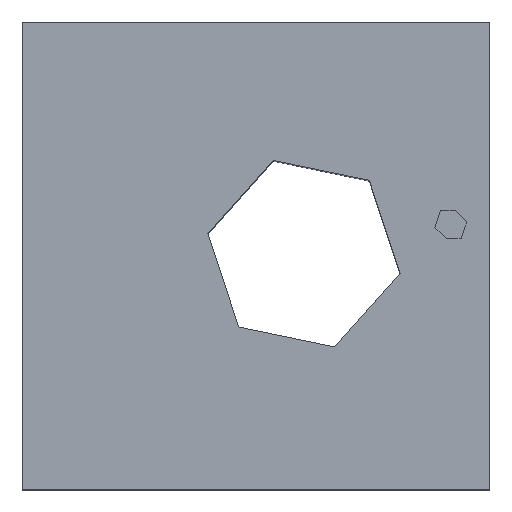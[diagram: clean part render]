
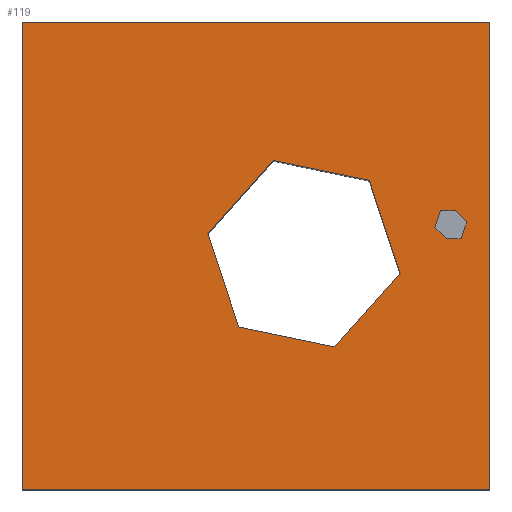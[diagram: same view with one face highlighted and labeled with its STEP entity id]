
A CAD part, top view. The second image highlights one B-rep face of the part: STEP entity #119.
In plain terms, the highlighted planar face has unit normal (0, 0, 1).
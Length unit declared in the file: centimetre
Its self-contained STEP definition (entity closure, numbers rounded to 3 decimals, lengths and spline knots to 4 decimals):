
#2 = VERTEX_POINT ( 'NONE', #594 ) ;
#5 = CARTESIAN_POINT ( 'NONE',  ( 882.92, 560.2804, 1000. ) ) ;
#12 = CARTESIAN_POINT ( 'NONE',  ( 907.2796, 535.9208, 1000. ) ) ;
#15 = VERTEX_POINT ( 'NONE', #497 ) ;
#45 = LINE ( 'NONE', #173, #414 ) ;
#49 = LINE ( 'NONE', #12, #220 ) ;
#61 = EDGE_CURVE ( 'NONE', #498, #516, #441, .T. ) ;
#66 = ORIENTED_EDGE ( 'NONE', *, *, #61, .T. ) ;
#79 = VERTEX_POINT ( 'NONE', #777 ) ;
#81 = LINE ( 'NONE', #461, #489 ) ;
#84 = DIRECTION ( 'NONE',  ( -0.312, -0.95, 0. ) ) ;
#87 = DIRECTION ( 'NONE',  ( 1., 0., 0. ) ) ;
#93 = DIRECTION ( 'NONE',  ( 0.312, 0.95, 0. ) ) ;
#116 = VERTEX_POINT ( 'NONE', #193 ) ;
#119 = ADVANCED_FACE ( 'NONE', ( #549, #185, #188 ), #313, .T. ) ;
#128 = DIRECTION ( 'NONE',  ( -0.979, 0.204, 0. ) ) ;
#152 = CARTESIAN_POINT ( 'NONE',  ( 742.6285, 660.9248, 1000. ) ) ;
#154 = ORIENTED_EDGE ( 'NONE', *, *, #550, .T. ) ;
#155 = LINE ( 'NONE', #570, #697 ) ;
#156 = VECTOR ( 'NONE', #584, 100. ) ;
#158 = VERTEX_POINT ( 'NONE', #202 ) ;
#165 = VERTEX_POINT ( 'NONE', #636 ) ;
#172 = EDGE_LOOP ( 'NONE', ( #66, #631, #287, #772 ) ) ;
#173 = CARTESIAN_POINT ( 'NONE',  ( 396.9165, 546.8906, 1000. ) ) ;
#177 = VECTOR ( 'NONE', #84, 100. ) ;
#185 = FACE_BOUND ( 'NONE', #362, .T. ) ;
#187 = LINE ( 'NONE', #152, #561 ) ;
#188 = FACE_OUTER_BOUND ( 'NONE', #172, .T. ) ;
#190 = ORIENTED_EDGE ( 'NONE', *, *, #520, .T. ) ;
#193 = CARTESIAN_POINT ( 'NONE',  ( 1000., 0., 1000. ) ) ;
#202 = CARTESIAN_POINT ( 'NONE',  ( 951.0688, 572.1522, 1000. ) ) ;
#204 = EDGE_CURVE ( 'NONE', #516, #116, #463, .T. ) ;
#207 = DIRECTION ( 'NONE',  ( 0.313, -0.95, 0. ) ) ;
#210 = EDGE_CURVE ( 'NONE', #337, #318, #211, .T. ) ;
#211 = LINE ( 'NONE', #327, #156 ) ;
#215 = ORIENTED_EDGE ( 'NONE', *, *, #692, .F. ) ;
#220 = VECTOR ( 'NONE', #543, 100. ) ;
#223 = EDGE_CURVE ( 'NONE', #384, #498, #155, .T. ) ;
#227 = EDGE_CURVE ( 'NONE', #443, #158, #332, .T. ) ;
#244 = CARTESIAN_POINT ( 'NONE',  ( 1000., 1000., 1000. ) ) ;
#248 = CARTESIAN_POINT ( 'NONE',  ( 907.2796, 535.9208, 1000. ) ) ;
#255 = CARTESIAN_POINT ( 'NONE',  ( 808.4662, 461.3279, 1000. ) ) ;
#261 = VERTEX_POINT ( 'NONE', #255 ) ;
#267 = ORIENTED_EDGE ( 'NONE', *, *, #227, .F. ) ;
#269 = VECTOR ( 'NONE', #390, 100. ) ;
#277 = VERTEX_POINT ( 'NONE', #248 ) ;
#282 = VECTOR ( 'NONE', #372, 100. ) ;
#287 = ORIENTED_EDGE ( 'NONE', *, *, #472, .T. ) ;
#293 = LINE ( 'NONE', #666, #664 ) ;
#304 = ORIENTED_EDGE ( 'NONE', *, *, #397, .T. ) ;
#309 = ORIENTED_EDGE ( 'NONE', *, *, #413, .F. ) ;
#313 = PLANE ( 'NONE',  #591 ) ;
#317 = CARTESIAN_POINT ( 'NONE',  ( 536.8537, 703.7061, 1000. ) ) ;
#318 = VERTEX_POINT ( 'NONE', #618 ) ;
#325 = VERTEX_POINT ( 'NONE', #660 ) ;
#327 = CARTESIAN_POINT ( 'NONE',  ( 536.8537, 703.7061, 1000. ) ) ;
#329 = DIRECTION ( 'NONE',  ( -0.313, 0.95, 0. ) ) ;
#332 = LINE ( 'NONE', #581, #538 ) ;
#333 = VECTOR ( 'NONE', #745, 100. ) ;
#337 = VERTEX_POINT ( 'NONE', #317 ) ;
#343 = ORIENTED_EDGE ( 'NONE', *, *, #575, .T. ) ;
#356 = EDGE_CURVE ( 'NONE', #2, #15, #363, .T. ) ;
#362 = EDGE_LOOP ( 'NONE', ( #565, #343, #462, #304, #190, #154 ) ) ;
#363 = LINE ( 'NONE', #551, #530 ) ;
#372 = DIRECTION ( 'NONE',  ( 0., -1., 0. ) ) ;
#378 = DIRECTION ( 'NONE',  ( 0., 0., 1. ) ) ;
#384 = VERTEX_POINT ( 'NONE', #244 ) ;
#390 = DIRECTION ( 'NONE',  ( -0.707, 0.707, 0. ) ) ;
#397 = EDGE_CURVE ( 'NONE', #318, #261, #187, .T. ) ;
#413 = EDGE_CURVE ( 'NONE', #15, #165, #585, .T. ) ;
#414 = VECTOR ( 'NONE', #712, 100. ) ;
#426 = VERTEX_POINT ( 'NONE', #524 ) ;
#441 = LINE ( 'NONE', #615, #282 ) ;
#443 = VERTEX_POINT ( 'NONE', #686 ) ;
#455 = DIRECTION ( 'NONE',  ( -1., 0., 0. ) ) ;
#456 = CARTESIAN_POINT ( 'NONE',  ( 0., 1000., 1000. ) ) ;
#461 = CARTESIAN_POINT ( 'NONE',  ( 462.7542, 347.2937, 1000. ) ) ;
#462 = ORIENTED_EDGE ( 'NONE', *, *, #210, .T. ) ;
#463 = LINE ( 'NONE', #523, #501 ) ;
#464 = CARTESIAN_POINT ( 'NONE',  ( 894.8166, 596.5118, 1000. ) ) ;
#472 = EDGE_CURVE ( 'NONE', #116, #384, #641, .T. ) ;
#479 = VECTOR ( 'NONE', #670, 100. ) ;
#486 = CARTESIAN_POINT ( 'NONE',  ( 668.529, 304.5123, 1000. ) ) ;
#489 = VECTOR ( 'NONE', #329, 100. ) ;
#497 = CARTESIAN_POINT ( 'NONE',  ( 894.8166, 596.5118, 1000. ) ) ;
#498 = VERTEX_POINT ( 'NONE', #456 ) ;
#501 = VECTOR ( 'NONE', #87, 100. ) ;
#516 = VERTEX_POINT ( 'NONE', #541 ) ;
#520 = EDGE_CURVE ( 'NONE', #261, #426, #293, .T. ) ;
#523 = CARTESIAN_POINT ( 'NONE',  ( 0., 0., 1000. ) ) ;
#524 = CARTESIAN_POINT ( 'NONE',  ( 668.529, 304.5123, 1000. ) ) ;
#530 = VECTOR ( 'NONE', #717, 100. ) ;
#538 = VECTOR ( 'NONE', #93, 100. ) ;
#539 = EDGE_LOOP ( 'NONE', ( #267, #625, #558, #309, #643, #215 ) ) ;
#541 = CARTESIAN_POINT ( 'NONE',  ( 0., 0., 1000. ) ) ;
#543 = DIRECTION ( 'NONE',  ( 1., 0., 0. ) ) ;
#549 = FACE_BOUND ( 'NONE', #539, .T. ) ;
#550 = EDGE_CURVE ( 'NONE', #426, #79, #731, .T. ) ;
#551 = CARTESIAN_POINT ( 'NONE',  ( 926.7092, 596.5118, 1000. ) ) ;
#555 = EDGE_CURVE ( 'NONE', #277, #443, #49, .T. ) ;
#556 = LINE ( 'NONE', #5, #479 ) ;
#558 = ORIENTED_EDGE ( 'NONE', *, *, #652, .F. ) ;
#561 = VECTOR ( 'NONE', #207, 100. ) ;
#563 = DIRECTION ( 'NONE',  ( -0.666, -0.746, 0. ) ) ;
#565 = ORIENTED_EDGE ( 'NONE', *, *, #752, .T. ) ;
#570 = CARTESIAN_POINT ( 'NONE',  ( 0., 1000., 1000. ) ) ;
#575 = EDGE_CURVE ( 'NONE', #325, #337, #45, .T. ) ;
#581 = CARTESIAN_POINT ( 'NONE',  ( 939.1723, 535.9208, 1000. ) ) ;
#584 = DIRECTION ( 'NONE',  ( 0.979, -0.204, 0. ) ) ;
#585 = LINE ( 'NONE', #464, #177 ) ;
#591 = AXIS2_PLACEMENT_3D ( 'NONE', #671, #378, #732 ) ;
#592 = VECTOR ( 'NONE', #128, 100. ) ;
#594 = CARTESIAN_POINT ( 'NONE',  ( 926.7092, 596.5118, 1000. ) ) ;
#615 = CARTESIAN_POINT ( 'NONE',  ( 0., 1000., 1000. ) ) ;
#618 = CARTESIAN_POINT ( 'NONE',  ( 742.6285, 660.9248, 1000. ) ) ;
#625 = ORIENTED_EDGE ( 'NONE', *, *, #555, .F. ) ;
#631 = ORIENTED_EDGE ( 'NONE', *, *, #204, .T. ) ;
#633 = CARTESIAN_POINT ( 'NONE',  ( 1000., 1000., 1000. ) ) ;
#636 = CARTESIAN_POINT ( 'NONE',  ( 882.92, 560.2804, 1000. ) ) ;
#641 = LINE ( 'NONE', #633, #333 ) ;
#643 = ORIENTED_EDGE ( 'NONE', *, *, #356, .F. ) ;
#652 = EDGE_CURVE ( 'NONE', #165, #277, #556, .T. ) ;
#660 = CARTESIAN_POINT ( 'NONE',  ( 396.9165, 546.8906, 1000. ) ) ;
#664 = VECTOR ( 'NONE', #563, 100. ) ;
#666 = CARTESIAN_POINT ( 'NONE',  ( 808.4662, 461.3279, 1000. ) ) ;
#670 = DIRECTION ( 'NONE',  ( 0.707, -0.707, 0. ) ) ;
#671 = CARTESIAN_POINT ( 'NONE',  ( 0., 0., 1000. ) ) ;
#674 = CARTESIAN_POINT ( 'NONE',  ( 951.0688, 572.1522, 1000. ) ) ;
#683 = LINE ( 'NONE', #674, #269 ) ;
#686 = CARTESIAN_POINT ( 'NONE',  ( 939.1723, 535.9208, 1000. ) ) ;
#692 = EDGE_CURVE ( 'NONE', #158, #2, #683, .T. ) ;
#697 = VECTOR ( 'NONE', #455, 100. ) ;
#712 = DIRECTION ( 'NONE',  ( 0.666, 0.746, 0. ) ) ;
#717 = DIRECTION ( 'NONE',  ( -1., 0., 0. ) ) ;
#731 = LINE ( 'NONE', #486, #592 ) ;
#732 = DIRECTION ( 'NONE',  ( 1., 0., 0. ) ) ;
#745 = DIRECTION ( 'NONE',  ( 0., 1., 0. ) ) ;
#752 = EDGE_CURVE ( 'NONE', #79, #325, #81, .T. ) ;
#772 = ORIENTED_EDGE ( 'NONE', *, *, #223, .T. ) ;
#777 = CARTESIAN_POINT ( 'NONE',  ( 462.7542, 347.2937, 1000. ) ) ;
